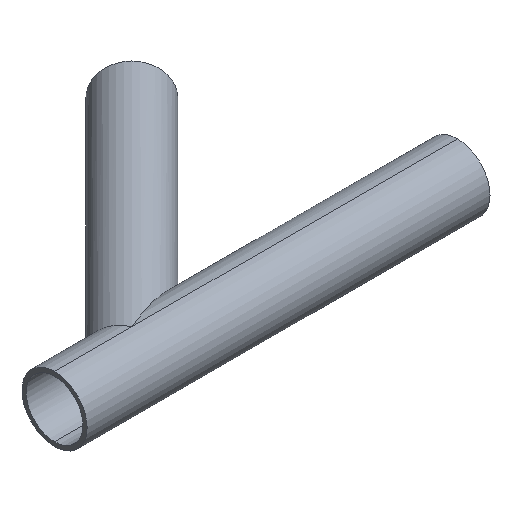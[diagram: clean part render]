
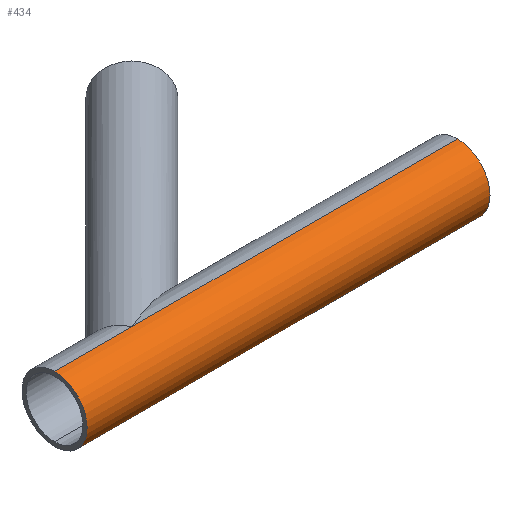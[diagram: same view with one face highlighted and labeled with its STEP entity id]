
A CAD part, isometric view. The second image highlights one B-rep face of the part: STEP entity #434.
In plain terms, the highlighted cylindrical face has radius 12.7 mm (diameter 25.4 mm), a partial arc.
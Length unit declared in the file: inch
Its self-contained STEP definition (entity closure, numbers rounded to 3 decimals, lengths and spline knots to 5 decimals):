
#10 = EDGE_CURVE ( 'NONE', #391, #124, #283, .T. ) ;
#21 = CARTESIAN_POINT ( 'NONE',  ( 5., 0., 0.5 ) ) ;
#22 = EDGE_CURVE ( 'NONE', #391, #397, #280, .T. ) ;
#23 = VECTOR ( 'NONE', #370, 39.37008 ) ;
#33 = CARTESIAN_POINT ( 'NONE',  ( -1.187, 0., 0. ) ) ;
#43 = DIRECTION ( 'NONE',  ( 1., 0., 0. ) ) ;
#51 = FACE_OUTER_BOUND ( 'NONE', #478, .T. ) ;
#87 = AXIS2_PLACEMENT_3D ( 'NONE', #422, #159, #396 ) ;
#91 = CARTESIAN_POINT ( 'NONE',  ( -1.187, 0., -0.5 ) ) ;
#101 = LINE ( 'NONE', #267, #23 ) ;
#108 = DIRECTION ( 'NONE',  ( 1., 0., 0. ) ) ;
#111 = ORIENTED_EDGE ( 'NONE', *, *, #268, .F. ) ;
#121 = LINE ( 'NONE', #394, #132 ) ;
#124 = VERTEX_POINT ( 'NONE', #200 ) ;
#130 = DIRECTION ( 'NONE',  ( 0., 0., -1. ) ) ;
#132 = VECTOR ( 'NONE', #236, 39.37008 ) ;
#141 = CARTESIAN_POINT ( 'NONE',  ( -1.187, 0., 0.5 ) ) ;
#149 = ORIENTED_EDGE ( 'NONE', *, *, #237, .T. ) ;
#154 = CARTESIAN_POINT ( 'NONE',  ( -1.187, 0., 0.5 ) ) ;
#159 = DIRECTION ( 'NONE',  ( 1., 0., 0. ) ) ;
#162 = LINE ( 'NONE', #91, #174 ) ;
#174 = VECTOR ( 'NONE', #395, 39.37008 ) ;
#180 = EDGE_CURVE ( 'NONE', #485, #342, #199, .T. ) ;
#197 = AXIS2_PLACEMENT_3D ( 'NONE', #224, #43, #367 ) ;
#199 = CIRCLE ( 'NONE', #87, 0.5 ) ;
#200 = CARTESIAN_POINT ( 'NONE',  ( -1.187, 0., -0.5 ) ) ;
#207 = ORIENTED_EDGE ( 'NONE', *, *, #10, .T. ) ;
#208 = CARTESIAN_POINT ( 'NONE',  ( 0., 0., -0.5 ) ) ;
#216 = ORIENTED_EDGE ( 'NONE', *, *, #180, .F. ) ;
#224 = CARTESIAN_POINT ( 'NONE',  ( -1.187, 0., 0. ) ) ;
#225 = AXIS2_PLACEMENT_3D ( 'NONE', #33, #249, #130 ) ;
#236 = DIRECTION ( 'NONE',  ( 1., 0., 0. ) ) ;
#237 = EDGE_CURVE ( 'NONE', #124, #254, #162, .T. ) ;
#249 = DIRECTION ( 'NONE',  ( 1., 0., 0. ) ) ;
#254 = VERTEX_POINT ( 'NONE', #208 ) ;
#267 = CARTESIAN_POINT ( 'NONE',  ( -1.187, 0., -0.5 ) ) ;
#268 = EDGE_CURVE ( 'NONE', #397, #485, #121, .T. ) ;
#280 = LINE ( 'NONE', #154, #406 ) ;
#283 = CIRCLE ( 'NONE', #225, 0.5 ) ;
#329 = ORIENTED_EDGE ( 'NONE', *, *, #22, .F. ) ;
#342 = VERTEX_POINT ( 'NONE', #451 ) ;
#355 = ORIENTED_EDGE ( 'NONE', *, *, #480, .T. ) ;
#367 = DIRECTION ( 'NONE',  ( 0., 0., -1. ) ) ;
#370 = DIRECTION ( 'NONE',  ( 1., 0., 0. ) ) ;
#391 = VERTEX_POINT ( 'NONE', #141 ) ;
#394 = CARTESIAN_POINT ( 'NONE',  ( -1.187, 0., 0.5 ) ) ;
#395 = DIRECTION ( 'NONE',  ( 1., 0., 0. ) ) ;
#396 = DIRECTION ( 'NONE',  ( 0., 0., -1. ) ) ;
#397 = VERTEX_POINT ( 'NONE', #481 ) ;
#406 = VECTOR ( 'NONE', #108, 39.37008 ) ;
#422 = CARTESIAN_POINT ( 'NONE',  ( 5., 0., 0. ) ) ;
#434 = ADVANCED_FACE ( 'NONE', ( #51 ), #443, .T. ) ;
#443 = CYLINDRICAL_SURFACE ( 'NONE', #197, 0.5 ) ;
#451 = CARTESIAN_POINT ( 'NONE',  ( 5., 0., -0.5 ) ) ;
#478 = EDGE_LOOP ( 'NONE', ( #329, #207, #149, #355, #216, #111 ) ) ;
#480 = EDGE_CURVE ( 'NONE', #254, #342, #101, .T. ) ;
#481 = CARTESIAN_POINT ( 'NONE',  ( 0., 0., 0.5 ) ) ;
#485 = VERTEX_POINT ( 'NONE', #21 ) ;
